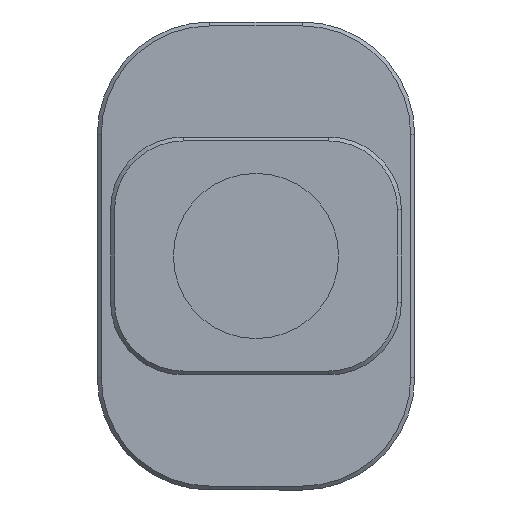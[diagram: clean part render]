
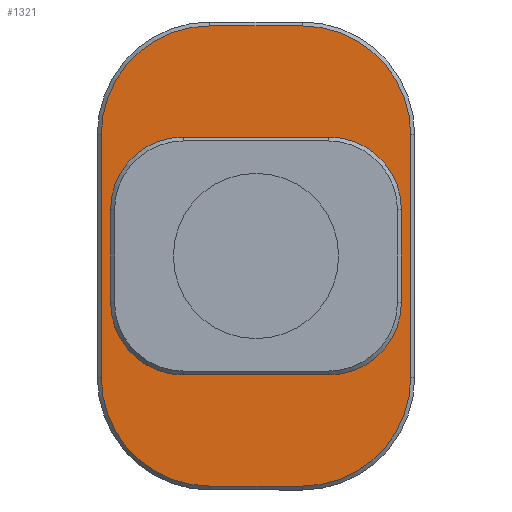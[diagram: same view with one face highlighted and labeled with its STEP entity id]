
A CAD part, front view. The second image highlights one B-rep face of the part: STEP entity #1321.
In plain terms, the highlighted planar face has unit normal (0, -1, 0).
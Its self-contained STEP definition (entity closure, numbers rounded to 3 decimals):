
#32 = VERTEX_POINT ( 'NONE', #180 ) ;
#63 = VERTEX_POINT ( 'NONE', #574 ) ;
#72 = CARTESIAN_POINT ( 'NONE',  ( -3.5, 11., 17.4 ) ) ;
#76 = DIRECTION ( 'NONE',  ( 0., 0., 1. ) ) ;
#94 = CARTESIAN_POINT ( 'NONE',  ( 0., 11., -9. ) ) ;
#114 = AXIS2_PLACEMENT_3D ( 'NONE', #956, #241, #1194 ) ;
#119 = CARTESIAN_POINT ( 'NONE',  ( 3.5, 11., -17.4 ) ) ;
#125 = LINE ( 'NONE', #471, #1044 ) ;
#147 = CARTESIAN_POINT ( 'NONE',  ( -3.5, 11., -17.4 ) ) ;
#149 = VERTEX_POINT ( 'NONE', #1308 ) ;
#159 = CARTESIAN_POINT ( 'NONE',  ( -11.7, 11., 9.2 ) ) ;
#162 = DIRECTION ( 'NONE',  ( 0., 1., 0. ) ) ;
#175 = DIRECTION ( 'NONE',  ( 0., -1., 0. ) ) ;
#180 = CARTESIAN_POINT ( 'NONE',  ( -11., 11., 3.5 ) ) ;
#184 = CIRCLE ( 'NONE', #1091, 8.2 ) ;
#189 = EDGE_LOOP ( 'NONE', ( #626, #596, #1443, #1328, #630, #604, #1162, #1518 ) ) ;
#197 = LINE ( 'NONE', #676, #658 ) ;
#206 = AXIS2_PLACEMENT_3D ( 'NONE', #398, #1104, #529 ) ;
#210 = VERTEX_POINT ( 'NONE', #119 ) ;
#241 = DIRECTION ( 'NONE',  ( 0., 1., 0. ) ) ;
#268 = CARTESIAN_POINT ( 'NONE',  ( 11., 11., 3.5 ) ) ;
#270 = ORIENTED_EDGE ( 'NONE', *, *, #1524, .T. ) ;
#314 = VERTEX_POINT ( 'NONE', #771 ) ;
#315 = VECTOR ( 'NONE', #768, 1000. ) ;
#354 = FACE_OUTER_BOUND ( 'NONE', #702, .T. ) ;
#367 = VERTEX_POINT ( 'NONE', #938 ) ;
#376 = EDGE_CURVE ( 'NONE', #367, #1038, #1397, .T. ) ;
#398 = CARTESIAN_POINT ( 'NONE',  ( -5.5, 11., 3.5 ) ) ;
#402 = CARTESIAN_POINT ( 'NONE',  ( 11.7, 11., 9.2 ) ) ;
#404 = EDGE_CURVE ( 'NONE', #1313, #63, #1165, .T. ) ;
#412 = EDGE_CURVE ( 'NONE', #1038, #314, #752, .T. ) ;
#435 = VECTOR ( 'NONE', #1494, 1000. ) ;
#471 = CARTESIAN_POINT ( 'NONE',  ( 0., 11., 17.4 ) ) ;
#492 = CIRCLE ( 'NONE', #1353, 5.5 ) ;
#505 = CARTESIAN_POINT ( 'NONE',  ( 5.5, 11., 9. ) ) ;
#529 = DIRECTION ( 'NONE',  ( 0., 0., 1. ) ) ;
#546 = CARTESIAN_POINT ( 'NONE',  ( -11.7, 11., -9.2 ) ) ;
#559 = EDGE_CURVE ( 'NONE', #1336, #1313, #733, .T. ) ;
#560 = ORIENTED_EDGE ( 'NONE', *, *, #634, .T. ) ;
#563 = CIRCLE ( 'NONE', #1310, 5.5 ) ;
#564 = VECTOR ( 'NONE', #1350, 1000. ) ;
#573 = DIRECTION ( 'NONE',  ( -1., 0., 0. ) ) ;
#574 = CARTESIAN_POINT ( 'NONE',  ( -5.5, 11., -9. ) ) ;
#586 = CIRCLE ( 'NONE', #206, 5.5 ) ;
#594 = VERTEX_POINT ( 'NONE', #268 ) ;
#596 = ORIENTED_EDGE ( 'NONE', *, *, #701, .T. ) ;
#604 = ORIENTED_EDGE ( 'NONE', *, *, #975, .T. ) ;
#624 = VERTEX_POINT ( 'NONE', #147 ) ;
#626 = ORIENTED_EDGE ( 'NONE', *, *, #995, .T. ) ;
#627 = CARTESIAN_POINT ( 'NONE',  ( -3.5, 11., 9.2 ) ) ;
#630 = ORIENTED_EDGE ( 'NONE', *, *, #404, .T. ) ;
#634 = EDGE_CURVE ( 'NONE', #1183, #624, #755, .T. ) ;
#658 = VECTOR ( 'NONE', #1485, 1000. ) ;
#666 = EDGE_CURVE ( 'NONE', #1235, #32, #761, .T. ) ;
#670 = DIRECTION ( 'NONE',  ( 0., 0., 1. ) ) ;
#676 = CARTESIAN_POINT ( 'NONE',  ( -11.7, 11., 0. ) ) ;
#694 = DIRECTION ( 'NONE',  ( 0., 0., 1. ) ) ;
#701 = EDGE_CURVE ( 'NONE', #981, #594, #563, .T. ) ;
#702 = EDGE_LOOP ( 'NONE', ( #1169, #797, #560, #1070, #806, #1088, #1015, #270 ) ) ;
#706 = VERTEX_POINT ( 'NONE', #72 ) ;
#711 = LINE ( 'NONE', #1203, #837 ) ;
#733 = CIRCLE ( 'NONE', #1009, 5.5 ) ;
#752 = CIRCLE ( 'NONE', #1207, 8.2 ) ;
#755 = CIRCLE ( 'NONE', #932, 8.2 ) ;
#761 = LINE ( 'NONE', #799, #435 ) ;
#765 = EDGE_CURVE ( 'NONE', #1001, #1183, #197, .T. ) ;
#768 = DIRECTION ( 'NONE',  ( 0., 0., -1. ) ) ;
#771 = CARTESIAN_POINT ( 'NONE',  ( 3.5, 11., 17.4 ) ) ;
#779 = VECTOR ( 'NONE', #1384, 1000. ) ;
#797 = ORIENTED_EDGE ( 'NONE', *, *, #765, .T. ) ;
#799 = CARTESIAN_POINT ( 'NONE',  ( -11., 11., 0. ) ) ;
#806 = ORIENTED_EDGE ( 'NONE', *, *, #1167, .T. ) ;
#834 = FACE_BOUND ( 'NONE', #189, .T. ) ;
#837 = VECTOR ( 'NONE', #1314, 1000. ) ;
#857 = VECTOR ( 'NONE', #573, 1000. ) ;
#866 = EDGE_CURVE ( 'NONE', #624, #210, #711, .T. ) ;
#878 = LINE ( 'NONE', #1344, #315 ) ;
#880 = DIRECTION ( 'NONE',  ( 0., 0., 1. ) ) ;
#914 = DIRECTION ( 'NONE',  ( 0., 1., 0. ) ) ;
#925 = EDGE_CURVE ( 'NONE', #594, #1336, #878, .T. ) ;
#932 = AXIS2_PLACEMENT_3D ( 'NONE', #999, #1456, #880 ) ;
#938 = CARTESIAN_POINT ( 'NONE',  ( 11.7, 11., -9.2 ) ) ;
#948 = CARTESIAN_POINT ( 'NONE',  ( 5.5, 11., -9. ) ) ;
#956 = CARTESIAN_POINT ( 'NONE',  ( 0., 11., 0. ) ) ;
#973 = DIRECTION ( 'NONE',  ( 0., 0., 1. ) ) ;
#975 = EDGE_CURVE ( 'NONE', #63, #1235, #492, .T. ) ;
#981 = VERTEX_POINT ( 'NONE', #505 ) ;
#991 = DIRECTION ( 'NONE',  ( 0., 1., 0. ) ) ;
#995 = EDGE_CURVE ( 'NONE', #149, #981, #1466, .T. ) ;
#999 = CARTESIAN_POINT ( 'NONE',  ( -3.5, 11., -9.2 ) ) ;
#1001 = VERTEX_POINT ( 'NONE', #159 ) ;
#1009 = AXIS2_PLACEMENT_3D ( 'NONE', #1128, #162, #1105 ) ;
#1015 = ORIENTED_EDGE ( 'NONE', *, *, #412, .T. ) ;
#1027 = EDGE_CURVE ( 'NONE', #706, #1001, #1377, .T. ) ;
#1033 = CARTESIAN_POINT ( 'NONE',  ( 3.5, 11., 9.2 ) ) ;
#1035 = EDGE_CURVE ( 'NONE', #32, #149, #586, .T. ) ;
#1038 = VERTEX_POINT ( 'NONE', #402 ) ;
#1044 = VECTOR ( 'NONE', #1278, 1000. ) ;
#1046 = CARTESIAN_POINT ( 'NONE',  ( 3.5, 11., -9.2 ) ) ;
#1070 = ORIENTED_EDGE ( 'NONE', *, *, #866, .T. ) ;
#1088 = ORIENTED_EDGE ( 'NONE', *, *, #376, .T. ) ;
#1091 = AXIS2_PLACEMENT_3D ( 'NONE', #1046, #175, #670 ) ;
#1104 = DIRECTION ( 'NONE',  ( 0., 1., 0. ) ) ;
#1105 = DIRECTION ( 'NONE',  ( 0., 0., 1. ) ) ;
#1119 = DIRECTION ( 'NONE',  ( 0., 0., 1. ) ) ;
#1128 = CARTESIAN_POINT ( 'NONE',  ( 5.5, 11., -3.5 ) ) ;
#1162 = ORIENTED_EDGE ( 'NONE', *, *, #666, .T. ) ;
#1165 = LINE ( 'NONE', #94, #857 ) ;
#1167 = EDGE_CURVE ( 'NONE', #210, #367, #184, .T. ) ;
#1169 = ORIENTED_EDGE ( 'NONE', *, *, #1027, .T. ) ;
#1183 = VERTEX_POINT ( 'NONE', #546 ) ;
#1194 = DIRECTION ( 'NONE',  ( 0., 0., 1. ) ) ;
#1203 = CARTESIAN_POINT ( 'NONE',  ( 0., 11., -17.4 ) ) ;
#1207 = AXIS2_PLACEMENT_3D ( 'NONE', #1033, #1504, #694 ) ;
#1217 = CARTESIAN_POINT ( 'NONE',  ( -5.5, 11., -3.5 ) ) ;
#1222 = CARTESIAN_POINT ( 'NONE',  ( 0., 11., 9. ) ) ;
#1235 = VERTEX_POINT ( 'NONE', #1301 ) ;
#1257 = AXIS2_PLACEMENT_3D ( 'NONE', #627, #1332, #1119 ) ;
#1263 = CARTESIAN_POINT ( 'NONE',  ( 11., 11., -3.5 ) ) ;
#1271 = CARTESIAN_POINT ( 'NONE',  ( 11.7, 11., 0. ) ) ;
#1278 = DIRECTION ( 'NONE',  ( -1., 0., 0. ) ) ;
#1301 = CARTESIAN_POINT ( 'NONE',  ( -11., 11., -3.5 ) ) ;
#1308 = CARTESIAN_POINT ( 'NONE',  ( -5.5, 11., 9. ) ) ;
#1310 = AXIS2_PLACEMENT_3D ( 'NONE', #1514, #914, #76 ) ;
#1311 = PLANE ( 'NONE',  #114 ) ;
#1313 = VERTEX_POINT ( 'NONE', #948 ) ;
#1314 = DIRECTION ( 'NONE',  ( 1., 0., 0. ) ) ;
#1321 = ADVANCED_FACE ( 'NONE', ( #354, #834 ), #1311, .F. ) ;
#1328 = ORIENTED_EDGE ( 'NONE', *, *, #559, .T. ) ;
#1332 = DIRECTION ( 'NONE',  ( 0., -1., 0. ) ) ;
#1336 = VERTEX_POINT ( 'NONE', #1263 ) ;
#1344 = CARTESIAN_POINT ( 'NONE',  ( 11., 11., 0. ) ) ;
#1350 = DIRECTION ( 'NONE',  ( 1., 0., 0. ) ) ;
#1353 = AXIS2_PLACEMENT_3D ( 'NONE', #1217, #991, #973 ) ;
#1377 = CIRCLE ( 'NONE', #1257, 8.2 ) ;
#1384 = DIRECTION ( 'NONE',  ( 0., 0., 1. ) ) ;
#1397 = LINE ( 'NONE', #1271, #779 ) ;
#1443 = ORIENTED_EDGE ( 'NONE', *, *, #925, .T. ) ;
#1456 = DIRECTION ( 'NONE',  ( 0., -1., 0. ) ) ;
#1466 = LINE ( 'NONE', #1222, #564 ) ;
#1485 = DIRECTION ( 'NONE',  ( 0., 0., -1. ) ) ;
#1494 = DIRECTION ( 'NONE',  ( 0., 0., 1. ) ) ;
#1504 = DIRECTION ( 'NONE',  ( 0., -1., 0. ) ) ;
#1514 = CARTESIAN_POINT ( 'NONE',  ( 5.5, 11., 3.5 ) ) ;
#1518 = ORIENTED_EDGE ( 'NONE', *, *, #1035, .T. ) ;
#1524 = EDGE_CURVE ( 'NONE', #314, #706, #125, .T. ) ;
